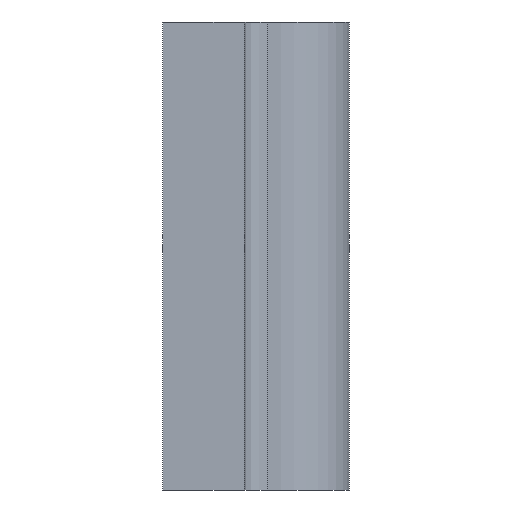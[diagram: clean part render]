
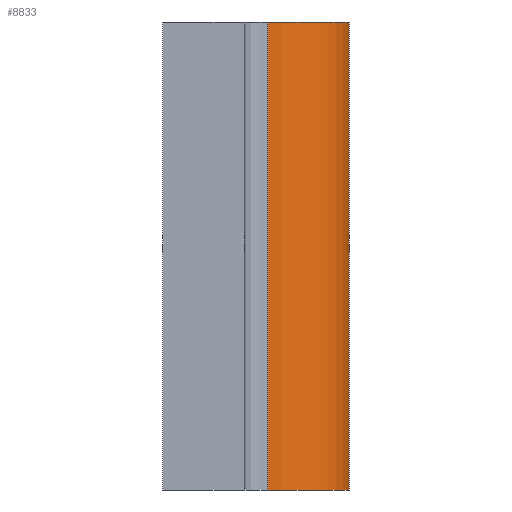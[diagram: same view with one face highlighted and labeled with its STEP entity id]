
A CAD part, left-side view. The second image highlights one B-rep face of the part: STEP entity #8833.
In plain terms, the highlighted cylindrical face has radius 2.46 mm (diameter 4.92 mm), a partial arc.
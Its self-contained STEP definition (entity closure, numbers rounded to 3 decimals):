
#66=CIRCLE('',#9334,2.46);
#67=CIRCLE('',#9335,2.46);
#767=CYLINDRICAL_SURFACE('',#9333,2.46);
#1119=FACE_OUTER_BOUND('',#1594,.T.);
#1594=EDGE_LOOP('',(#5879,#5880,#5881,#5882));
#2071=LINE('',#13642,#2789);
#2072=LINE('',#13648,#2790);
#2789=VECTOR('',#10534,1000.);
#2790=VECTOR('',#10541,1000.);
#3507=VERTEX_POINT('',#13639);
#3508=VERTEX_POINT('',#13641);
#3509=VERTEX_POINT('',#13645);
#3510=VERTEX_POINT('',#13647);
#4456=EDGE_CURVE('',#3508,#3507,#2071,.T.);
#4458=EDGE_CURVE('',#3507,#3509,#66,.T.);
#4459=EDGE_CURVE('',#3510,#3509,#2072,.T.);
#4460=EDGE_CURVE('',#3508,#3510,#67,.T.);
#5879=ORIENTED_EDGE('',*,*,#4458,.T.);
#5880=ORIENTED_EDGE('',*,*,#4459,.F.);
#5881=ORIENTED_EDGE('',*,*,#4460,.F.);
#5882=ORIENTED_EDGE('',*,*,#4456,.T.);
#8833=ADVANCED_FACE('',(#1119),#767,.T.);
#9333=AXIS2_PLACEMENT_3D('',#13644,#10537,#10538);
#9334=AXIS2_PLACEMENT_3D('',#13646,#10539,#10540);
#9335=AXIS2_PLACEMENT_3D('',#13649,#10542,#10543);
#10534=DIRECTION('',(0.,0.,-1.));
#10537=DIRECTION('center_axis',(0.,0.,-1.));
#10538=DIRECTION('ref_axis',(0.,-1.,0.));
#10539=DIRECTION('center_axis',(0.,0.,1.));
#10540=DIRECTION('ref_axis',(1.,0.,0.));
#10541=DIRECTION('',(0.,0.,-1.));
#10542=DIRECTION('center_axis',(0.,0.,1.));
#10543=DIRECTION('ref_axis',(1.,0.,0.));
#13639=CARTESIAN_POINT('',(-886.454,-3.369,0.));
#13641=CARTESIAN_POINT('',(-886.454,-3.369,15.));
#13642=CARTESIAN_POINT('',(-886.454,-3.369,15.));
#13644=CARTESIAN_POINT('Origin',(-884.,-3.541,15.));
#13645=CARTESIAN_POINT('',(-881.546,-3.369,0.));
#13646=CARTESIAN_POINT('Origin',(-884.,-3.541,0.));
#13647=CARTESIAN_POINT('',(-881.546,-3.369,15.));
#13648=CARTESIAN_POINT('',(-881.546,-3.369,15.));
#13649=CARTESIAN_POINT('Origin',(-884.,-3.541,15.));
